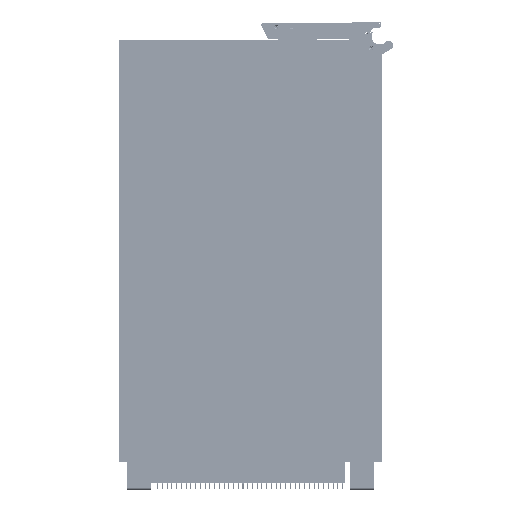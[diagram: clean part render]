
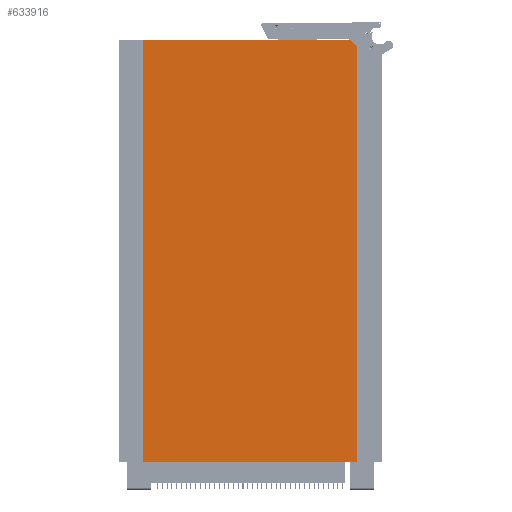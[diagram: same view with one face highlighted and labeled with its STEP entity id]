
A CAD part, front view. The second image highlights one B-rep face of the part: STEP entity #633916.
In plain terms, the highlighted planar face has unit normal (0, -1, 0).
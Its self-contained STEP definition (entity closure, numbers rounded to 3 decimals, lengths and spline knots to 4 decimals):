
#7117 = DIRECTION ( 'NONE',  ( -1., 0., 0. ) ) ;
#13715 = VERTEX_POINT ( 'NONE', #600742 ) ;
#26997 = LINE ( 'NONE', #448838, #45147 ) ;
#45147 = VECTOR ( 'NONE', #451297, 39.3701 ) ;
#52050 = DIRECTION ( 'NONE',  ( -1., 0., 0. ) ) ;
#79351 = ORIENTED_EDGE ( 'NONE', *, *, #476766, .T. ) ;
#92915 = DIRECTION ( 'NONE',  ( 0., 0., 1. ) ) ;
#172878 = EDGE_LOOP ( 'NONE', ( #79351, #643504, #305773, #347578, #629358 ) ) ;
#173427 = VERTEX_POINT ( 'NONE', #440022 ) ;
#176203 = VERTEX_POINT ( 'NONE', #692253 ) ;
#244805 = VECTOR ( 'NONE', #653964, 39.3701 ) ;
#251259 = CARTESIAN_POINT ( 'NONE',  ( 0., -0.755, 0. ) ) ;
#270882 = CARTESIAN_POINT ( 'NONE',  ( 0., -0.755, -6.2992 ) ) ;
#299293 = EDGE_CURVE ( 'NONE', #176203, #668803, #26997, .T. ) ;
#305773 = ORIENTED_EDGE ( 'NONE', *, *, #661736, .T. ) ;
#338287 = CARTESIAN_POINT ( 'NONE',  ( 0., -0.755, -6.2992 ) ) ;
#345183 = CARTESIAN_POINT ( 'NONE',  ( 1.5985, -0.755, -6.2992 ) ) ;
#347578 = ORIENTED_EDGE ( 'NONE', *, *, #720322, .F. ) ;
#396180 = DIRECTION ( 'NONE',  ( 0., 1., 0. ) ) ;
#397875 = LINE ( 'NONE', #596169, #244805 ) ;
#433585 = LINE ( 'NONE', #251259, #586543 ) ;
#436754 = VECTOR ( 'NONE', #7117, 39.3701 ) ;
#440022 = CARTESIAN_POINT ( 'NONE',  ( -1.5985, -0.755, -6.2992 ) ) ;
#448838 = CARTESIAN_POINT ( 'NONE',  ( 1.5985, -0.755, -0.1 ) ) ;
#451297 = DIRECTION ( 'NONE',  ( -0.707, 0., 0.707 ) ) ;
#451373 = PLANE ( 'NONE',  #567799 ) ;
#476766 = EDGE_CURVE ( 'NONE', #725613, #176203, #641751, .T. ) ;
#488705 = VECTOR ( 'NONE', #92915, 39.3701 ) ;
#489557 = CARTESIAN_POINT ( 'NONE',  ( 1.4985, -0.755, 0. ) ) ;
#552726 = CARTESIAN_POINT ( 'NONE',  ( 1.5985, -0.755, -6.2992 ) ) ;
#567799 = AXIS2_PLACEMENT_3D ( 'NONE', #338287, #396180, #52050 ) ;
#586543 = VECTOR ( 'NONE', #653460, 39.3701 ) ;
#596169 = CARTESIAN_POINT ( 'NONE',  ( -1.5985, -0.755, -6.2992 ) ) ;
#600742 = CARTESIAN_POINT ( 'NONE',  ( -1.5985, -0.755, 0. ) ) ;
#629358 = ORIENTED_EDGE ( 'NONE', *, *, #706602, .F. ) ;
#633916 = ADVANCED_FACE ( 'NONE', ( #705595 ), #451373, .F. ) ;
#641751 = LINE ( 'NONE', #552726, #488705 ) ;
#643504 = ORIENTED_EDGE ( 'NONE', *, *, #299293, .T. ) ;
#653460 = DIRECTION ( 'NONE',  ( -1., 0., 0. ) ) ;
#653964 = DIRECTION ( 'NONE',  ( 0., 0., 1. ) ) ;
#661736 = EDGE_CURVE ( 'NONE', #668803, #13715, #433585, .T. ) ;
#668803 = VERTEX_POINT ( 'NONE', #489557 ) ;
#692253 = CARTESIAN_POINT ( 'NONE',  ( 1.5985, -0.755, -0.1 ) ) ;
#705595 = FACE_OUTER_BOUND ( 'NONE', #172878, .T. ) ;
#706602 = EDGE_CURVE ( 'NONE', #725613, #173427, #742470, .T. ) ;
#720322 = EDGE_CURVE ( 'NONE', #173427, #13715, #397875, .T. ) ;
#725613 = VERTEX_POINT ( 'NONE', #345183 ) ;
#742470 = LINE ( 'NONE', #270882, #436754 ) ;
